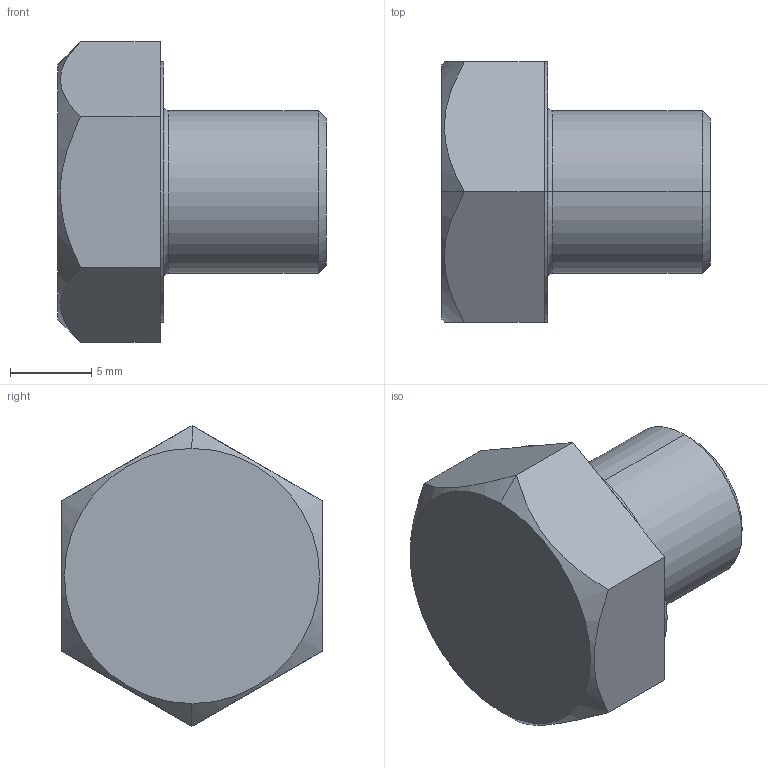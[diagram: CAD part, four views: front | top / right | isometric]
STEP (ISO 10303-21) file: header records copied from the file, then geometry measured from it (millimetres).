
FILE_DESCRIPTION (( 'STEP AP203' ), '1' );
FILE_NAME ('LGN-TD-M10x10.STEP', '2026-08-14T04:36:21', ( '' ), ( '' ), 'SwSTEP 2.0', 'SolidWorks 2020', '' );
FILE_SCHEMA (( 'CONFIG_CONTROL_DESIGN' ));
Length unit declared in the file: millimetre
Products named in the file (1): LGN-TD-M10x10
Bounding box: 16.5 x 16 x 18.48 mm (x, y, z)
Volume: 2207.4 mm3; surface area: 1082.6 mm2
Topology: 1 solids, 1 shells, 25 faces, 54 edges, 32 vertices
Faces by surface type: plane 15, cone 4, cylinder 4, torus 2
Entity records: 811 total; most frequent: CARTESIAN_POINT 184, DIRECTION 122, ORIENTED_EDGE 108, EDGE_CURVE 54, AXIS2_PLACEMENT_3D 48, VERTEX_POINT 32, EDGE_LOOP 26, LINE 26
